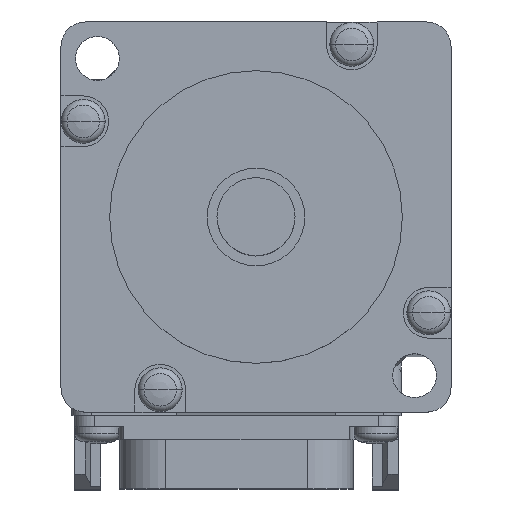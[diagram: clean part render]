
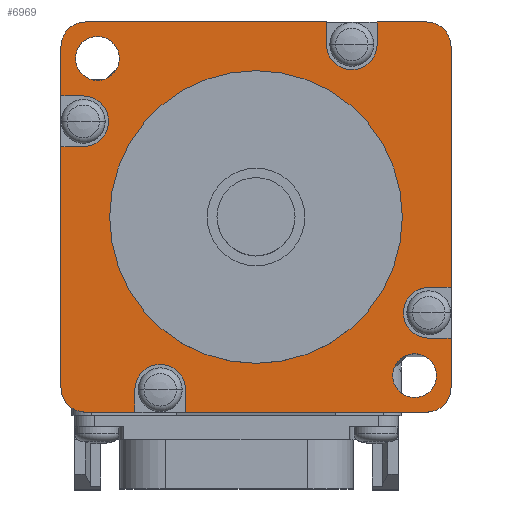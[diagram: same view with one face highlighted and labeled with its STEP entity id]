
A CAD part, top view. The second image highlights one B-rep face of the part: STEP entity #6969.
In plain terms, the highlighted planar face has unit normal (0, 0, 1).
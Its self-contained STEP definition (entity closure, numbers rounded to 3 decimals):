
#29=CARTESIAN_POINT('',(17.5,17.5,0.));
#30=DIRECTION('',(0.,0.,-1.));
#31=DIRECTION('',(0.,1.,0.));
#32=AXIS2_PLACEMENT_3D('',#29,#30,#31);
#34=CARTESIAN_POINT('',(17.711,-9.817,0.));
#35=DIRECTION('',(0.,0.,1.));
#36=DIRECTION('',(0.,1.,0.));
#37=AXIS2_PLACEMENT_3D('',#34,#35,#36);
#39=CARTESIAN_POINT('',(17.5,-17.5,0.));
#40=DIRECTION('',(0.,0.,-1.));
#41=DIRECTION('',(1.,0.,0.));
#42=AXIS2_PLACEMENT_3D('',#39,#40,#41);
#44=CARTESIAN_POINT('',(-9.817,-17.711,0.));
#45=DIRECTION('',(0.,0.,1.));
#46=DIRECTION('',(1.,0.,0.));
#47=AXIS2_PLACEMENT_3D('',#44,#45,#46);
#49=CARTESIAN_POINT('',(-17.5,-17.5,0.));
#50=DIRECTION('',(0.,0.,-1.));
#51=DIRECTION('',(0.,-1.,0.));
#52=AXIS2_PLACEMENT_3D('',#49,#50,#51);
#54=CARTESIAN_POINT('',(-17.711,9.817,0.));
#55=DIRECTION('',(0.,0.,1.));
#56=DIRECTION('',(0.,-1.,0.));
#57=AXIS2_PLACEMENT_3D('',#54,#55,#56);
#59=CARTESIAN_POINT('',(-17.5,17.5,0.));
#60=DIRECTION('',(0.,0.,-1.));
#61=DIRECTION('',(-1.,0.,0.));
#62=AXIS2_PLACEMENT_3D('',#59,#60,#61);
#64=CARTESIAN_POINT('',(9.817,17.711,0.));
#65=DIRECTION('',(0.,0.,1.));
#66=DIRECTION('',(-1.,0.,0.));
#67=AXIS2_PLACEMENT_3D('',#64,#65,#66);
#69=CARTESIAN_POINT('',(16.263,-16.263,0.));
#70=DIRECTION('',(0.,0.,1.));
#71=DIRECTION('',(0.,-1.,0.));
#72=AXIS2_PLACEMENT_3D('',#69,#70,#71);
#74=CARTESIAN_POINT('',(16.263,-16.263,0.));
#75=DIRECTION('',(0.,0.,1.));
#76=DIRECTION('',(0.,1.,0.));
#77=AXIS2_PLACEMENT_3D('',#74,#75,#76);
#79=CARTESIAN_POINT('',(-16.263,16.263,0.));
#80=DIRECTION('',(0.,0.,1.));
#81=DIRECTION('',(0.,1.,0.));
#82=AXIS2_PLACEMENT_3D('',#79,#80,#81);
#84=CARTESIAN_POINT('',(-16.263,16.263,0.));
#85=DIRECTION('',(0.,0.,1.));
#86=DIRECTION('',(0.,-1.,0.));
#87=AXIS2_PLACEMENT_3D('',#84,#85,#86);
#89=CARTESIAN_POINT('',(0.,0.,0.));
#90=DIRECTION('',(0.,0.,1.));
#91=DIRECTION('',(-1.,0.,0.));
#92=AXIS2_PLACEMENT_3D('',#89,#90,#91);
#94=CARTESIAN_POINT('',(0.,0.,0.));
#95=DIRECTION('',(0.,0.,1.));
#96=DIRECTION('',(1.,0.,0.));
#97=AXIS2_PLACEMENT_3D('',#94,#95,#96);
#167=DIRECTION('',(-1.,0.,0.));
#168=VECTOR('',#167,5.083);
#169=CARTESIAN_POINT('',(17.5,20.,0.));
#170=LINE('',#169,#168);
#171=DIRECTION('',(-1.,0.,0.));
#172=VECTOR('',#171,24.717);
#173=CARTESIAN_POINT('',(7.217,20.,0.));
#174=LINE('',#173,#172);
#336=DIRECTION('',(0.,-1.,0.));
#337=VECTOR('',#336,5.083);
#338=CARTESIAN_POINT('',(-20.,17.5,0.));
#339=LINE('',#338,#337);
#340=DIRECTION('',(0.,-1.,0.));
#341=VECTOR('',#340,24.717);
#342=CARTESIAN_POINT('',(-20.,7.217,0.));
#343=LINE('',#342,#341);
#827=DIRECTION('',(0.,1.,0.));
#828=VECTOR('',#827,5.083);
#829=CARTESIAN_POINT('',(20.,-17.5,0.));
#830=LINE('',#829,#828);
#831=DIRECTION('',(0.,1.,0.));
#832=VECTOR('',#831,24.717);
#833=CARTESIAN_POINT('',(20.,-7.217,0.));
#834=LINE('',#833,#832);
#1009=DIRECTION('',(1.,0.,0.));
#1010=VECTOR('',#1009,5.083);
#1011=CARTESIAN_POINT('',(-17.5,-20.,0.));
#1012=LINE('',#1011,#1010);
#1013=DIRECTION('',(1.,0.,0.));
#1014=VECTOR('',#1013,24.717);
#1015=CARTESIAN_POINT('',(-7.217,-20.,0.));
#1016=LINE('',#1015,#1014);
#4716=DIRECTION('',(0.,1.,0.));
#4717=VECTOR('',#4716,2.289);
#4718=CARTESIAN_POINT('',(-12.417,-20.,0.));
#4719=LINE('',#4718,#4717);
#4732=DIRECTION('',(0.,-1.,0.));
#4733=VECTOR('',#4732,2.289);
#4734=CARTESIAN_POINT('',(-7.217,-17.711,0.));
#4735=LINE('',#4734,#4733);
#4815=DIRECTION('',(-1.,0.,0.));
#4816=VECTOR('',#4815,2.289);
#4817=CARTESIAN_POINT('',(20.,-12.417,0.));
#4818=LINE('',#4817,#4816);
#4831=DIRECTION('',(1.,0.,0.));
#4832=VECTOR('',#4831,2.289);
#4833=CARTESIAN_POINT('',(17.711,-7.217,0.));
#4834=LINE('',#4833,#4832);
#5058=DIRECTION('',(1.,0.,0.));
#5059=VECTOR('',#5058,2.289);
#5060=CARTESIAN_POINT('',(-20.,12.417,0.));
#5061=LINE('',#5060,#5059);
#5074=DIRECTION('',(-1.,0.,0.));
#5075=VECTOR('',#5074,2.289);
#5076=CARTESIAN_POINT('',(-17.711,7.217,0.));
#5077=LINE('',#5076,#5075);
#5213=DIRECTION('',(0.,-1.,0.));
#5214=VECTOR('',#5213,2.289);
#5215=CARTESIAN_POINT('',(12.417,20.,0.));
#5216=LINE('',#5215,#5214);
#5229=DIRECTION('',(0.,1.,0.));
#5230=VECTOR('',#5229,2.289);
#5231=CARTESIAN_POINT('',(7.217,17.711,0.));
#5232=LINE('',#5231,#5230);
#5358=CARTESIAN_POINT('',(15.,0.,0.));
#5359=VERTEX_POINT('',#5358);
#5360=CARTESIAN_POINT('',(-15.,0.,0.));
#5361=VERTEX_POINT('',#5360);
#5362=CARTESIAN_POINT('',(16.263,-18.513,0.));
#5363=CARTESIAN_POINT('',(16.263,-14.013,0.));
#5364=VERTEX_POINT('',#5362);
#5365=VERTEX_POINT('',#5363);
#5366=CARTESIAN_POINT('',(-16.263,18.513,0.));
#5367=CARTESIAN_POINT('',(-16.263,14.013,0.));
#5368=VERTEX_POINT('',#5366);
#5369=VERTEX_POINT('',#5367);
#5370=CARTESIAN_POINT('',(17.5,20.,0.));
#5371=CARTESIAN_POINT('',(20.,17.5,0.));
#5372=VERTEX_POINT('',#5370);
#5373=VERTEX_POINT('',#5371);
#5374=CARTESIAN_POINT('',(17.711,-7.217,0.));
#5375=CARTESIAN_POINT('',(20.,-7.217,0.));
#5376=VERTEX_POINT('',#5374);
#5377=VERTEX_POINT('',#5375);
#5378=CARTESIAN_POINT('',(17.711,-12.417,0.));
#5379=VERTEX_POINT('',#5378);
#5380=CARTESIAN_POINT('',(20.,-12.417,0.));
#5381=VERTEX_POINT('',#5380);
#5382=CARTESIAN_POINT('',(20.,-17.5,0.));
#5383=CARTESIAN_POINT('',(17.5,-20.,0.));
#5384=VERTEX_POINT('',#5382);
#5385=VERTEX_POINT('',#5383);
#5386=CARTESIAN_POINT('',(-7.217,-17.711,0.));
#5387=CARTESIAN_POINT('',(-7.217,-20.,0.));
#5388=VERTEX_POINT('',#5386);
#5389=VERTEX_POINT('',#5387);
#5390=CARTESIAN_POINT('',(-12.417,-17.711,0.));
#5391=VERTEX_POINT('',#5390);
#5392=CARTESIAN_POINT('',(-12.417,-20.,0.));
#5393=VERTEX_POINT('',#5392);
#5394=CARTESIAN_POINT('',(-17.5,-20.,0.));
#5395=CARTESIAN_POINT('',(-20.,-17.5,0.));
#5396=VERTEX_POINT('',#5394);
#5397=VERTEX_POINT('',#5395);
#5398=CARTESIAN_POINT('',(-17.711,7.217,0.));
#5399=CARTESIAN_POINT('',(-20.,7.217,0.));
#5400=VERTEX_POINT('',#5398);
#5401=VERTEX_POINT('',#5399);
#5402=CARTESIAN_POINT('',(-17.711,12.417,0.));
#5403=VERTEX_POINT('',#5402);
#5404=CARTESIAN_POINT('',(-20.,12.417,0.));
#5405=VERTEX_POINT('',#5404);
#5406=CARTESIAN_POINT('',(-20.,17.5,0.));
#5407=CARTESIAN_POINT('',(-17.5,20.,0.));
#5408=VERTEX_POINT('',#5406);
#5409=VERTEX_POINT('',#5407);
#5410=CARTESIAN_POINT('',(7.217,17.711,0.));
#5411=CARTESIAN_POINT('',(7.217,20.,0.));
#5412=VERTEX_POINT('',#5410);
#5413=VERTEX_POINT('',#5411);
#5414=CARTESIAN_POINT('',(12.417,17.711,0.));
#5415=VERTEX_POINT('',#5414);
#5416=CARTESIAN_POINT('',(12.417,20.,0.));
#5417=VERTEX_POINT('',#5416);
#6898=CARTESIAN_POINT('',(0.,0.,0.));
#6899=DIRECTION('',(0.,0.,1.));
#6900=DIRECTION('',(1.,0.,0.));
#6901=AXIS2_PLACEMENT_3D('',#6898,#6899,#6900);
#6902=PLANE('',#6901);
#6904=ORIENTED_EDGE('',*,*,#6903,.T.);
#6906=ORIENTED_EDGE('',*,*,#6905,.F.);
#6908=ORIENTED_EDGE('',*,*,#6907,.F.);
#6910=ORIENTED_EDGE('',*,*,#6909,.T.);
#6912=ORIENTED_EDGE('',*,*,#6911,.F.);
#6914=ORIENTED_EDGE('',*,*,#6913,.F.);
#6916=ORIENTED_EDGE('',*,*,#6915,.T.);
#6918=ORIENTED_EDGE('',*,*,#6917,.F.);
#6920=ORIENTED_EDGE('',*,*,#6919,.F.);
#6922=ORIENTED_EDGE('',*,*,#6921,.T.);
#6924=ORIENTED_EDGE('',*,*,#6923,.F.);
#6926=ORIENTED_EDGE('',*,*,#6925,.F.);
#6928=ORIENTED_EDGE('',*,*,#6927,.T.);
#6930=ORIENTED_EDGE('',*,*,#6929,.F.);
#6932=ORIENTED_EDGE('',*,*,#6931,.F.);
#6934=ORIENTED_EDGE('',*,*,#6933,.T.);
#6936=ORIENTED_EDGE('',*,*,#6935,.F.);
#6938=ORIENTED_EDGE('',*,*,#6937,.F.);
#6940=ORIENTED_EDGE('',*,*,#6939,.T.);
#6942=ORIENTED_EDGE('',*,*,#6941,.F.);
#6944=ORIENTED_EDGE('',*,*,#6943,.F.);
#6946=ORIENTED_EDGE('',*,*,#6945,.T.);
#6948=ORIENTED_EDGE('',*,*,#6947,.F.);
#6950=ORIENTED_EDGE('',*,*,#6949,.F.);
#6951=EDGE_LOOP('',(#6904,#6906,#6908,#6910,#6912,#6914,#6916,#6918,#6920,#6922,
#6924,#6926,#6928,#6930,#6932,#6934,#6936,#6938,#6940,#6942,#6944,#6946,#6948,
#6950));
#6952=FACE_OUTER_BOUND('',#6951,.F.);
#6954=ORIENTED_EDGE('',*,*,#6953,.T.);
#6956=ORIENTED_EDGE('',*,*,#6955,.T.);
#6957=EDGE_LOOP('',(#6954,#6956));
#6958=FACE_BOUND('',#6957,.F.);
#6960=ORIENTED_EDGE('',*,*,#6959,.T.);
#6962=ORIENTED_EDGE('',*,*,#6961,.T.);
#6963=EDGE_LOOP('',(#6960,#6962));
#6964=FACE_BOUND('',#6963,.F.);
#6965=ORIENTED_EDGE('',*,*,#6878,.T.);
#6966=ORIENTED_EDGE('',*,*,#6892,.T.);
#6967=EDGE_LOOP('',(#6965,#6966));
#6968=FACE_BOUND('',#6967,.F.);
#6969=ADVANCED_FACE('',(#6952,#6958,#6964,#6968),#6902,.T.);
#33=CIRCLE('',#32,2.5);
#38=CIRCLE('',#37,2.6);
#43=CIRCLE('',#42,2.5);
#48=CIRCLE('',#47,2.6);
#53=CIRCLE('',#52,2.5);
#58=CIRCLE('',#57,2.6);
#63=CIRCLE('',#62,2.5);
#68=CIRCLE('',#67,2.6);
#73=CIRCLE('',#72,2.25);
#78=CIRCLE('',#77,2.25);
#83=CIRCLE('',#82,2.25);
#88=CIRCLE('',#87,2.25);
#93=CIRCLE('',#92,15.);
#98=CIRCLE('',#97,15.);
#6878=EDGE_CURVE('',#5361,#5359,#93,.T.);
#6892=EDGE_CURVE('',#5359,#5361,#98,.T.);
#6903=EDGE_CURVE('',#5372,#5373,#33,.T.);
#6905=EDGE_CURVE('',#5377,#5373,#834,.T.);
#6907=EDGE_CURVE('',#5376,#5377,#4834,.T.);
#6909=EDGE_CURVE('',#5376,#5379,#38,.T.);
#6911=EDGE_CURVE('',#5381,#5379,#4818,.T.);
#6913=EDGE_CURVE('',#5384,#5381,#830,.T.);
#6915=EDGE_CURVE('',#5384,#5385,#43,.T.);
#6917=EDGE_CURVE('',#5389,#5385,#1016,.T.);
#6919=EDGE_CURVE('',#5388,#5389,#4735,.T.);
#6921=EDGE_CURVE('',#5388,#5391,#48,.T.);
#6923=EDGE_CURVE('',#5393,#5391,#4719,.T.);
#6925=EDGE_CURVE('',#5396,#5393,#1012,.T.);
#6927=EDGE_CURVE('',#5396,#5397,#53,.T.);
#6929=EDGE_CURVE('',#5401,#5397,#343,.T.);
#6931=EDGE_CURVE('',#5400,#5401,#5077,.T.);
#6933=EDGE_CURVE('',#5400,#5403,#58,.T.);
#6935=EDGE_CURVE('',#5405,#5403,#5061,.T.);
#6937=EDGE_CURVE('',#5408,#5405,#339,.T.);
#6939=EDGE_CURVE('',#5408,#5409,#63,.T.);
#6941=EDGE_CURVE('',#5413,#5409,#174,.T.);
#6943=EDGE_CURVE('',#5412,#5413,#5232,.T.);
#6945=EDGE_CURVE('',#5412,#5415,#68,.T.);
#6947=EDGE_CURVE('',#5417,#5415,#5216,.T.);
#6949=EDGE_CURVE('',#5372,#5417,#170,.T.);
#6953=EDGE_CURVE('',#5364,#5365,#73,.T.);
#6955=EDGE_CURVE('',#5365,#5364,#78,.T.);
#6959=EDGE_CURVE('',#5368,#5369,#83,.T.);
#6961=EDGE_CURVE('',#5369,#5368,#88,.T.);
